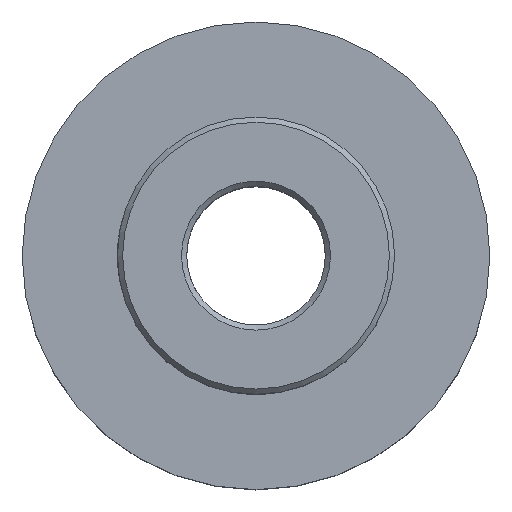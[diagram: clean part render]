
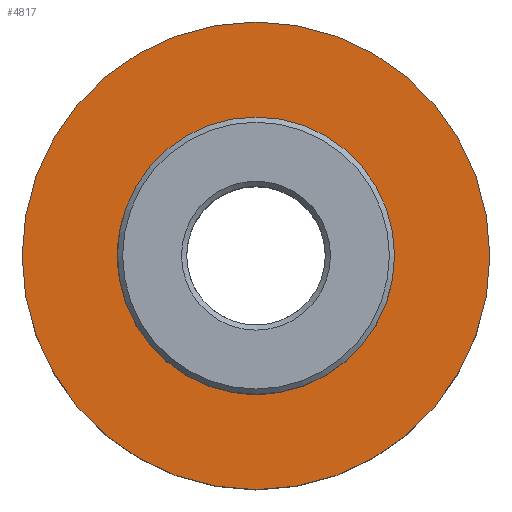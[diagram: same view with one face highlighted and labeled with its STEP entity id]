
A CAD part, top view. The second image highlights one B-rep face of the part: STEP entity #4817.
In plain terms, the highlighted planar face has unit normal (0, 0, 1).
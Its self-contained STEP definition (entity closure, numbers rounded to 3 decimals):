
#20=PLANE('',#5576);
#31=FACE_BOUND('',#558,.T.);
#294=FACE_OUTER_BOUND('',#557,.T.);
#557=EDGE_LOOP('',(#3817));
#558=EDGE_LOOP('',(#3818));
#1561=CIRCLE('',#5574,8.);
#1562=CIRCLE('',#5577,13.5);
#2060=VERTEX_POINT('',#9041);
#2061=VERTEX_POINT('',#9047);
#2806=EDGE_CURVE('',#2060,#2060,#1561,.T.);
#2808=EDGE_CURVE('',#2061,#2061,#1562,.T.);
#3817=ORIENTED_EDGE('',*,*,#2808,.T.);
#3818=ORIENTED_EDGE('',*,*,#2806,.T.);
#4817=ADVANCED_FACE('',(#294,#31),#20,.T.);
#5574=AXIS2_PLACEMENT_3D('',#9043,#7310,#7311);
#5576=AXIS2_PLACEMENT_3D('',#9046,#7315,#7316);
#5577=AXIS2_PLACEMENT_3D('',#9048,#7317,#7318);
#7310=DIRECTION('center_axis',(0.,0.,-1.));
#7311=DIRECTION('ref_axis',(-1.,0.,0.));
#7315=DIRECTION('center_axis',(0.,0.,1.));
#7316=DIRECTION('ref_axis',(-1.,0.,0.));
#7317=DIRECTION('center_axis',(0.,0.,1.));
#7318=DIRECTION('ref_axis',(-1.,0.,0.));
#9041=CARTESIAN_POINT('',(8.,0.,5.));
#9043=CARTESIAN_POINT('Origin',(0.,0.,5.));
#9046=CARTESIAN_POINT('Origin',(0.,0.,5.));
#9047=CARTESIAN_POINT('',(13.5,0.,5.));
#9048=CARTESIAN_POINT('Origin',(0.,0.,5.));
